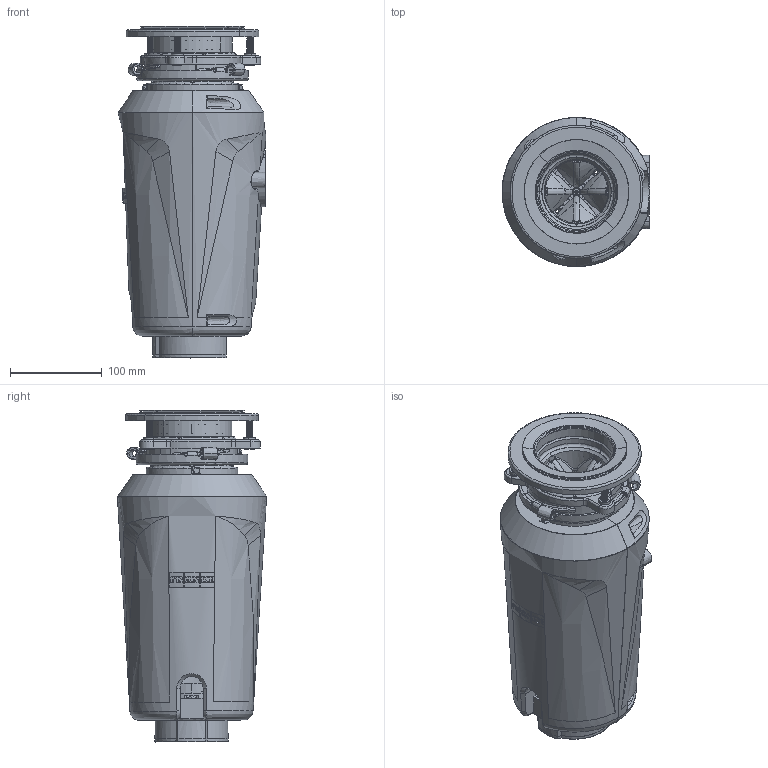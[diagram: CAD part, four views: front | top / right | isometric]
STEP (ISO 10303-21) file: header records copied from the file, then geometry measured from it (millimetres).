
FILE_DESCRIPTION(/* description */ (''),/* implementation_level */ '2;1');
FILE_NAME(/* name */ '3D001_Food-Waste-Disposers_Elite-Slimline_Slim-50-45',/* time_stamp */ '2024-03-28T12:31:00+01:00',/* author */ (''),/* organization */ (''),/* preprocessor_version */ 'ST-DEVELOPER v19.2',/* originating_system */ 'Rhino 8.4',/* authorisation */ '');
FILE_SCHEMA (('CONFIG_CONTROL_DESIGN'));
Products named in the file (10): Document; FLANGE_ASM_1_ASM_1_ASM_1_ASM; SINKFLANGE_3BOLT_4_1_1; SPRING_5_1_1; U_MOUNTING_3BOLT_9_1_1; YABAN2_7_1_1; RUBBERRING_3BOLT_10_1_1; PRT0001_1_1; OUT_SCREW_BOLT_1_1; FIBER_RING_3B_1_1
Bounding box: 161.1 x 162.59 x 361.82 mm (x, y, z)
Volume: 495630.7 mm3; surface area: 554333.9 mm2
Topology: 25 solids, 31 shells, 3511 faces, 9659 edges, 6270 vertices
Faces by surface type: plane 1974, bspline 961, cylinder 576
Entity records: 159170 total; most frequent: CARTESIAN_POINT 96500, ORIENTED_EDGE 17903, EDGE_CURVE 9011, B_SPLINE_CURVE_WITH_KNOTS 7329, VERTEX_POINT 5850, DIRECTION 4038, EDGE_LOOP 3460, ADVANCED_FACE 3285
